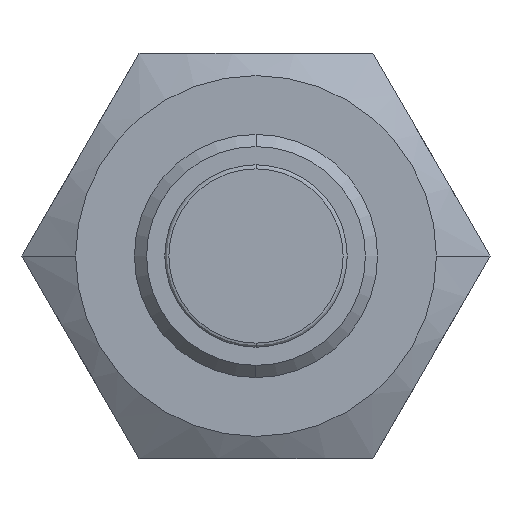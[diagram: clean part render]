
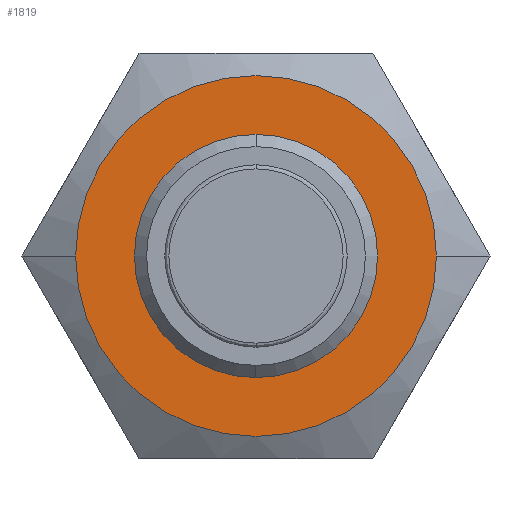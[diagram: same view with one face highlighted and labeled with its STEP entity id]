
A CAD part, front view. The second image highlights one B-rep face of the part: STEP entity #1819.
In plain terms, the highlighted planar face has unit normal (0, -1, 0) as drawn and (-1, 0, 0) by its records, which use the part's own axes.
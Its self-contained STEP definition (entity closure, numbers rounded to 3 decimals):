
#1200=CARTESIAN_POINT('',(0.,0.,0.));
#1201=DIRECTION('',(-1.,0.,0.));
#1202=DIRECTION('',(0.,1.,0.));
#1203=AXIS2_PLACEMENT_3D('',#1200,#1201,#1202);
#1208=CARTESIAN_POINT('',(0.,0.,0.));
#1209=DIRECTION('',(-1.,0.,0.));
#1210=DIRECTION('',(0.,-1.,0.));
#1211=AXIS2_PLACEMENT_3D('',#1208,#1209,#1210);
#1216=CARTESIAN_POINT('',(0.,0.,0.));
#1217=DIRECTION('',(1.,0.,0.));
#1218=DIRECTION('',(0.,0.,1.));
#1219=AXIS2_PLACEMENT_3D('',#1216,#1217,#1218);
#1224=CARTESIAN_POINT('',(0.,0.,0.));
#1225=DIRECTION('',(1.,0.,0.));
#1226=DIRECTION('',(0.,0.,-1.));
#1227=AXIS2_PLACEMENT_3D('',#1224,#1225,#1226);
#1704=CARTESIAN_POINT('',(0.,0.,3.));
#1705=CARTESIAN_POINT('',(0.,0.,-3.));
#1706=VERTEX_POINT('',#1704);
#1707=VERTEX_POINT('',#1705);
#1712=CARTESIAN_POINT('',(0.,-4.45,0.));
#1713=VERTEX_POINT('',#1712);
#1714=CARTESIAN_POINT('',(0.,4.45,0.));
#1715=VERTEX_POINT('',#1714);
#1804=CARTESIAN_POINT('',(0.,0.,0.));
#1805=DIRECTION('',(1.,0.,0.));
#1806=DIRECTION('',(0.,0.,-1.));
#1807=AXIS2_PLACEMENT_3D('',#1804,#1805,#1806);
#1808=PLANE('',#1807);
#1810=ORIENTED_EDGE('',*,*,#1809,.F.);
#1812=ORIENTED_EDGE('',*,*,#1811,.F.);
#1813=EDGE_LOOP('',(#1810,#1812));
#1814=FACE_OUTER_BOUND('',#1813,.F.);
#1815=ORIENTED_EDGE('',*,*,#1745,.F.);
#1816=ORIENTED_EDGE('',*,*,#1798,.F.);
#1817=EDGE_LOOP('',(#1815,#1816));
#1818=FACE_BOUND('',#1817,.F.);
#1204=CIRCLE('',#1203,4.45);
#1212=CIRCLE('',#1211,4.45);
#1220=CIRCLE('',#1219,3.);
#1228=CIRCLE('',#1227,3.);
#1745=EDGE_CURVE('',#1706,#1707,#1220,.T.);
#1798=EDGE_CURVE('',#1707,#1706,#1228,.T.);
#1809=EDGE_CURVE('',#1715,#1713,#1204,.T.);
#1811=EDGE_CURVE('',#1713,#1715,#1212,.T.);
#1819=ADVANCED_FACE('',(#1814,#1818),#1808,.F.);
